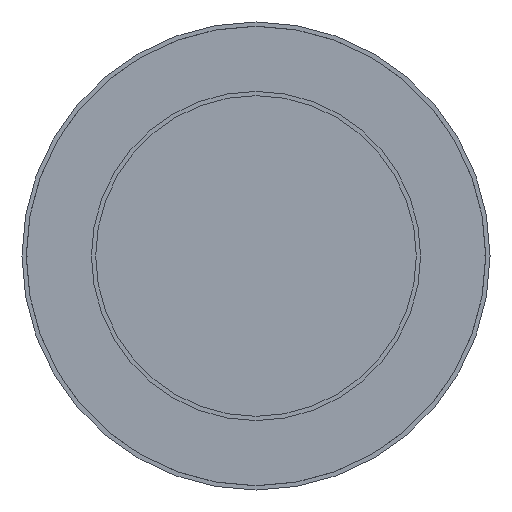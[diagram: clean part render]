
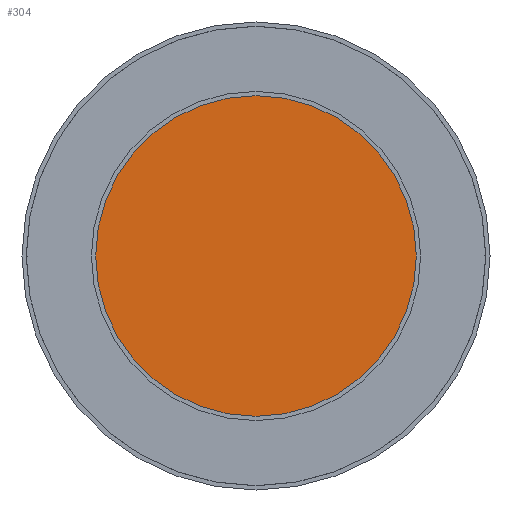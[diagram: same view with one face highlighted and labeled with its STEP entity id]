
A CAD part, front view. The second image highlights one B-rep face of the part: STEP entity #304.
In plain terms, the highlighted planar face has unit normal (0, -1, 0).
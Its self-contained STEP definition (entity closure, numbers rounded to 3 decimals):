
#151=CARTESIAN_POINT('',(0.,0.,0.));
#152=DIRECTION('',(0.,1.,0.));
#153=DIRECTION('',(-1.,0.,0.));
#154=AXIS2_PLACEMENT_3D('',#151,#152,#153);
#160=CARTESIAN_POINT('',(0.,0.,0.));
#161=DIRECTION('',(0.,1.,0.));
#162=DIRECTION('',(1.,0.,0.));
#163=AXIS2_PLACEMENT_3D('',#160,#161,#162);
#285=CARTESIAN_POINT('',(-75.,0.,0.));
#286=CARTESIAN_POINT('',(75.,0.,0.));
#287=VERTEX_POINT('',#285);
#288=VERTEX_POINT('',#286);
#293=CARTESIAN_POINT('',(0.,0.,0.));
#294=DIRECTION('',(0.,-1.,0.));
#295=DIRECTION('',(-1.,0.,0.));
#296=AXIS2_PLACEMENT_3D('',#293,#294,#295);
#297=PLANE('',#296);
#299=ORIENTED_EDGE('',*,*,#298,.T.);
#301=ORIENTED_EDGE('',*,*,#300,.T.);
#302=EDGE_LOOP('',(#299,#301));
#303=FACE_OUTER_BOUND('',#302,.F.);
#155=CIRCLE('',#154,75.);
#164=CIRCLE('',#163,75.);
#298=EDGE_CURVE('',#287,#288,#155,.T.);
#300=EDGE_CURVE('',#288,#287,#164,.T.);
#304=ADVANCED_FACE('',(#303),#297,.T.);
